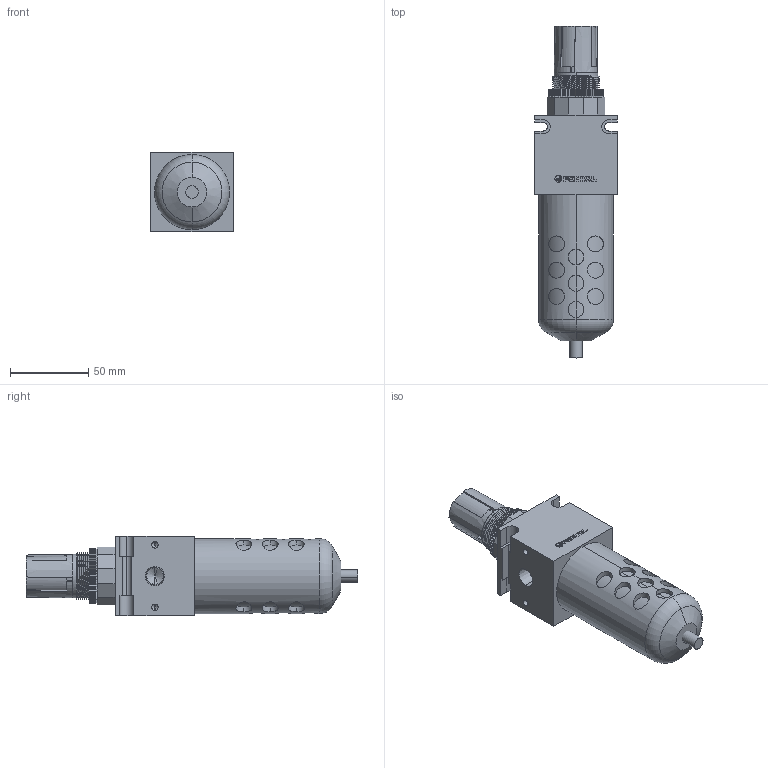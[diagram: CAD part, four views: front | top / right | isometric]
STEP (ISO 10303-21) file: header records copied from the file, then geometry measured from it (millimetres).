
FILE_DESCRIPTION (( 'STEP AP203' ), '1' );
FILE_NAME ('B55#-02#Y##.STEP', '2016-01-14T19:03:04', ( '' ), ( '' ), 'SwSTEP 2.0', 'SolidWorks 2014', '' );
FILE_SCHEMA (( 'CONFIG_CONTROL_DESIGN' ));
Length unit declared in the file: millimetre
Products named in the file (11): R364-4; Y排水; R364-上上部; F45-MARK; R364-2; B55#-02#Y##; R364-3; R364-5; R55-1; F55-2; F55-02
Assembly tree (10 placements, depth 3):
  B55#-02#Y##
    R364-上上部
      R364-2
      R364-3
      R364-4
      R364-5
    F55-02
      F55-2
      F45-MARK
      Y排水
      R55-1
Bounding box: 53 x 212.5 x 51.12 mm (x, y, z)
Volume: 325845.8 mm3; surface area: 52392.8 mm2
Topology: 14 solids, 14 shells, 515 faces, 1375 edges, 898 vertices
Faces by surface type: plane 276, cylinder 198, cone 25, bspline 14, torus 2
Entity records: 21203 total; most frequent: CARTESIAN_POINT 7385, ORIENTED_EDGE 2726, DIRECTION 2512, EDGE_CURVE 1363, LINE 908, VECTOR 908, VERTEX_POINT 898, AXIS2_PLACEMENT_3D 802
